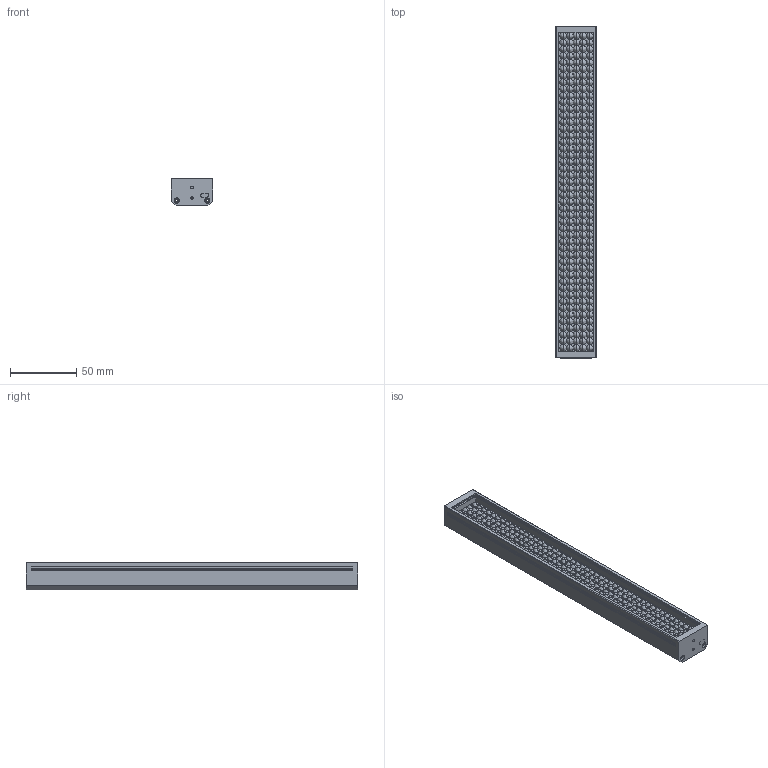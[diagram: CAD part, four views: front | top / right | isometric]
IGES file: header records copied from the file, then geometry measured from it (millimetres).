
Start section: SolidWorks IGES file using analytic representation for surfaces
Global section: file name: C:\Users\Administrator\Desktop\20200117165320612952.IGS; native system: SolidWorks 2019; preprocessor: SolidWorks 2019; author: Administrator; date: 200227.152946; units: millimetre
Bounding box: 31 x 250 x 21 mm (x, y, z)
Surface area: 65380.2 mm2 (no closed solid volume)
Topology: 0 solids, 0 shells, 659 faces, 7141 edges, 6661 vertices
Faces by surface type: bspline 620, revolution 39
